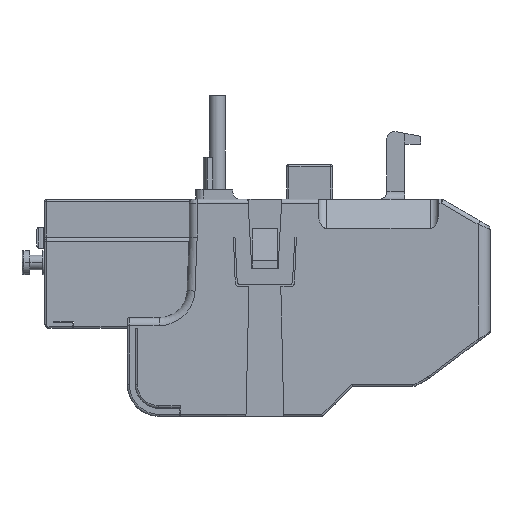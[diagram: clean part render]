
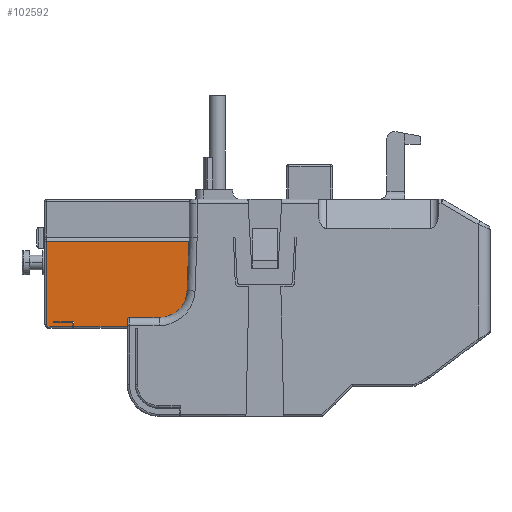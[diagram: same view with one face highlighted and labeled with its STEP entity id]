
A CAD part, left-side view. The second image highlights one B-rep face of the part: STEP entity #102592.
In plain terms, the highlighted planar face has unit normal (-1, 0, 0).
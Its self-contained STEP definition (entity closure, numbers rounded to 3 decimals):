
#6505=DIRECTION('',(0.,0.,-1.));
#6506=VECTOR('',#6505,1.7);
#6507=CARTESIAN_POINT('',(-22.,36.25,-20.7));
#6508=LINE('',#6507,#6506);
#16391=DIRECTION('',(0.,1.,0.));
#16392=VECTOR('',#16391,35.86);
#16393=CARTESIAN_POINT('',(-22.,20.79,-1.));
#16394=LINE('',#16393,#16392);
#16409=DIRECTION('',(0.,-1.,0.));
#16410=VECTOR('',#16409,5.);
#16411=CARTESIAN_POINT('',(-22.,54.75,-21.3));
#16412=LINE('',#16411,#16410);
#16413=DIRECTION('',(0.,0.,1.));
#16414=VECTOR('',#16413,1.);
#16415=CARTESIAN_POINT('',(-22.,49.95,-22.4));
#16416=LINE('',#16415,#16414);
#16417=DIRECTION('',(0.,-1.,0.));
#16418=VECTOR('',#16417,6.49);
#16419=CARTESIAN_POINT('',(-22.,56.44,-22.4));
#16420=LINE('',#16419,#16418);
#16421=CARTESIAN_POINT('',(-22.,55.95,-21.9));
#16422=DIRECTION('',(1.,0.,0.));
#16423=DIRECTION('',(0.,0.7,-0.714));
#16424=AXIS2_PLACEMENT_3D('',#16421,#16422,#16423);
#16426=DIRECTION('',(0.,0.,1.));
#16427=VECTOR('',#16426,20.9);
#16428=CARTESIAN_POINT('',(-22.,56.65,-21.9));
#16429=LINE('',#16428,#16427);
#16430=DIRECTION('',(0.,0.04,-0.999));
#16431=VECTOR('',#16430,12.487);
#16432=CARTESIAN_POINT('',(-22.,20.79,-1.));
#16433=LINE('',#16432,#16431);
#16434=CARTESIAN_POINT('',(-22.,28.278,-13.2));
#16435=DIRECTION('',(-1.,0.,0.));
#16436=DIRECTION('',(0.,0.,-1.));
#16437=AXIS2_PLACEMENT_3D('',#16434,#16435,#16436);
#16439=DIRECTION('',(0.,1.,0.));
#16440=VECTOR('',#16439,7.472);
#16441=CARTESIAN_POINT('',(-22.,28.278,-20.2));
#16442=LINE('',#16441,#16440);
#16443=DIRECTION('',(0.,-1.,0.));
#16444=VECTOR('',#16443,13.5);
#16445=CARTESIAN_POINT('',(-22.,49.75,-22.4));
#16446=LINE('',#16445,#16444);
#16447=DIRECTION('',(0.,0.,1.));
#16448=VECTOR('',#16447,1.1);
#16449=CARTESIAN_POINT('',(-22.,49.75,-22.4));
#16450=LINE('',#16449,#16448);
#16467=DIRECTION('',(0.,0.,1.));
#16468=VECTOR('',#16467,0.1);
#16469=CARTESIAN_POINT('',(-22.,54.75,-21.4));
#16470=LINE('',#16469,#16468);
#18227=DIRECTION('',(0.,1.,0.));
#18228=VECTOR('',#18227,4.8);
#18229=CARTESIAN_POINT('',(-22.,49.95,-21.4));
#18230=LINE('',#18229,#18228);
#32003=CARTESIAN_POINT('',(-22.,35.75,-20.7));
#32004=DIRECTION('',(1.,0.,0.));
#32005=DIRECTION('',(0.,1.,0.));
#32006=AXIS2_PLACEMENT_3D('',#32003,#32004,#32005);
#64799=CARTESIAN_POINT('',(-22.,28.278,-20.2));
#64800=CARTESIAN_POINT('',(-22.,21.284,-13.477));
#64801=VERTEX_POINT('',#64799);
#64802=VERTEX_POINT('',#64800);
#65276=CARTESIAN_POINT('',(-22.,49.75,-22.4));
#65277=CARTESIAN_POINT('',(-22.,49.75,-21.3));
#65278=VERTEX_POINT('',#65276);
#65279=VERTEX_POINT('',#65277);
#65294=CARTESIAN_POINT('',(-22.,36.25,-22.4));
#65295=VERTEX_POINT('',#65294);
#65408=CARTESIAN_POINT('',(-22.,35.75,-20.2));
#65409=VERTEX_POINT('',#65408);
#65410=CARTESIAN_POINT('',(-22.,36.25,-20.7));
#65412=VERTEX_POINT('',#65410);
#71719=CARTESIAN_POINT('',(-22.,20.79,-1.));
#71720=VERTEX_POINT('',#71719);
#72061=CARTESIAN_POINT('',(-22.,49.95,-21.4));
#72062=CARTESIAN_POINT('',(-22.,54.75,-21.4));
#72063=VERTEX_POINT('',#72061);
#72064=VERTEX_POINT('',#72062);
#76105=CARTESIAN_POINT('',(-22.,49.95,-22.4));
#76107=VERTEX_POINT('',#76105);
#76211=CARTESIAN_POINT('',(-22.,56.65,-1.));
#76212=VERTEX_POINT('',#76211);
#76215=CARTESIAN_POINT('',(-22.,56.65,-21.9));
#76216=VERTEX_POINT('',#76215);
#76219=CARTESIAN_POINT('',(-22.,56.44,-22.4));
#76220=VERTEX_POINT('',#76219);
#77582=CARTESIAN_POINT('',(-22.,54.75,-21.3));
#77583=VERTEX_POINT('',#77582);
#102557=CARTESIAN_POINT('',(-22.,54.75,-25.));
#102558=DIRECTION('',(1.,0.,0.));
#102559=DIRECTION('',(0.,-1.,0.));
#102560=AXIS2_PLACEMENT_3D('',#102557,#102558,#102559);
#102561=PLANE('',#102560);
#102563=ORIENTED_EDGE('',*,*,#102562,.F.);
#102565=ORIENTED_EDGE('',*,*,#102564,.F.);
#102567=ORIENTED_EDGE('',*,*,#102566,.F.);
#102569=ORIENTED_EDGE('',*,*,#102568,.F.);
#102571=ORIENTED_EDGE('',*,*,#102570,.F.);
#102573=ORIENTED_EDGE('',*,*,#102572,.T.);
#102575=ORIENTED_EDGE('',*,*,#102574,.T.);
#102576=ORIENTED_EDGE('',*,*,#102538,.F.);
#102578=ORIENTED_EDGE('',*,*,#102577,.T.);
#102580=ORIENTED_EDGE('',*,*,#102579,.F.);
#102582=ORIENTED_EDGE('',*,*,#102581,.T.);
#102584=ORIENTED_EDGE('',*,*,#102583,.F.);
#102585=ORIENTED_EDGE('',*,*,#86468,.T.);
#102587=ORIENTED_EDGE('',*,*,#102586,.F.);
#102589=ORIENTED_EDGE('',*,*,#102588,.T.);
#102590=EDGE_LOOP('',(#102563,#102565,#102567,#102569,#102571,#102573,#102575,
#102576,#102578,#102580,#102582,#102584,#102585,#102587,#102589));
#102591=FACE_OUTER_BOUND('',#102590,.F.);
#102592=ADVANCED_FACE('',(#102591),#102561,.F.);
#16425=CIRCLE('',#16424,0.7);
#16438=CIRCLE('',#16437,7.);
#32007=CIRCLE('',#32006,0.5);
#86468=EDGE_CURVE('',#65412,#65295,#6508,.T.);
#102538=EDGE_CURVE('',#71720,#76212,#16394,.T.);
#102562=EDGE_CURVE('',#77583,#65279,#16412,.T.);
#102564=EDGE_CURVE('',#72064,#77583,#16470,.T.);
#102566=EDGE_CURVE('',#72063,#72064,#18230,.T.);
#102568=EDGE_CURVE('',#76107,#72063,#16416,.T.);
#102570=EDGE_CURVE('',#76220,#76107,#16420,.T.);
#102572=EDGE_CURVE('',#76220,#76216,#16425,.T.);
#102574=EDGE_CURVE('',#76216,#76212,#16429,.T.);
#102577=EDGE_CURVE('',#71720,#64802,#16433,.T.);
#102579=EDGE_CURVE('',#64801,#64802,#16438,.T.);
#102581=EDGE_CURVE('',#64801,#65409,#16442,.T.);
#102583=EDGE_CURVE('',#65412,#65409,#32007,.T.);
#102586=EDGE_CURVE('',#65278,#65295,#16446,.T.);
#102588=EDGE_CURVE('',#65278,#65279,#16450,.T.);
